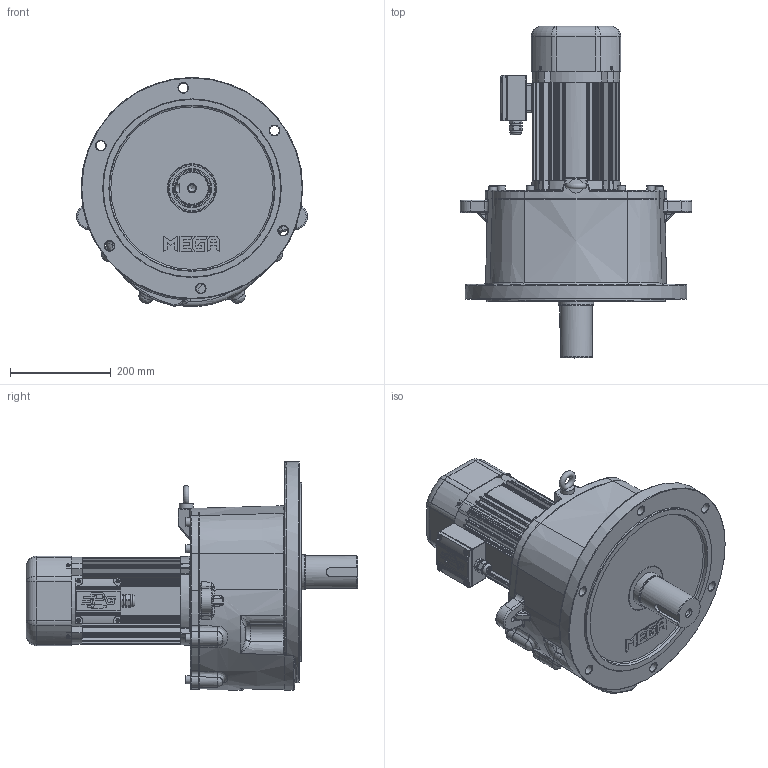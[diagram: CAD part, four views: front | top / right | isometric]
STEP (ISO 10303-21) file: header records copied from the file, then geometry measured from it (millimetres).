
FILE_DESCRIPTION(/* description */ (''),/* implementation_level */ '2;1');
FILE_NAME(/* name */ 'Z:\동력 3D 파일\PMK235_1.5kW_Brake_3D.stp',/* time_stamp */ '2021-12-01T08:42:48+09:00',/* author */ ('jaebok'),/* organization */ (''),/* preprocessor_version */ 'ST-DEVELOPER v18.1',/* originating_system */ 'Autodesk Inventor 2022',/* authorisation */ '');
FILE_SCHEMA (('AUTOMOTIVE_DESIGN { 1 0 10303 214 3 1 1 }'));
Products named in the file (1): 부품3
Bounding box: 459.83 x 659.8 x 455.2 mm (x, y, z)
Volume: 13840267.4 mm3; surface area: 1896090.7 mm2
Topology: 2 solids, 33 shells, 2864 faces, 7131 edges, 4274 vertices
Faces by surface type: plane 954, cylinder 817, bspline 494, torus 260, cone 201, sphere 138
Full cylindrical faces by diameter (mm): 3.25 x1, 3.6 x4, 4 x21, 4.917 x4, 5 x13, 6 x5, 7 x12, 8 x5, 8.376 x1, 10 x9, 10.106 x11, 12 x9, 12.5 x1, 13 x8, 13.835 x1, 15 x1, 16 x8, 19 x6, 20 x3, 21 x1, 23.6 x1, 25 x1, 28 x1, 36 x1, 40 x1, 50 x1, 52 x1, 55 x1, 62 x1, 65 x1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
Entity records: 109870 total; most frequent: CARTESIAN_POINT 41362, ORIENTED_EDGE 13898, DIRECTION 13749, EDGE_CURVE 6949, AXIS2_PLACEMENT_3D 5533, VERTEX_POINT 4272, EDGE_LOOP 3103, CIRCLE 3034
